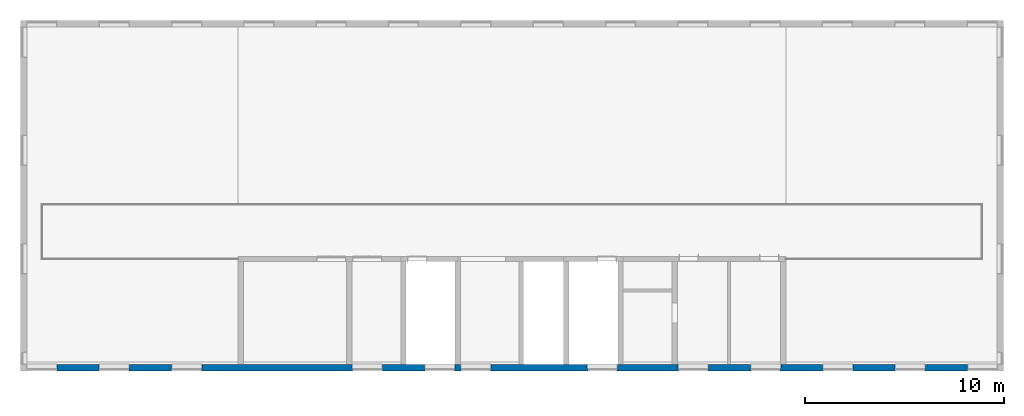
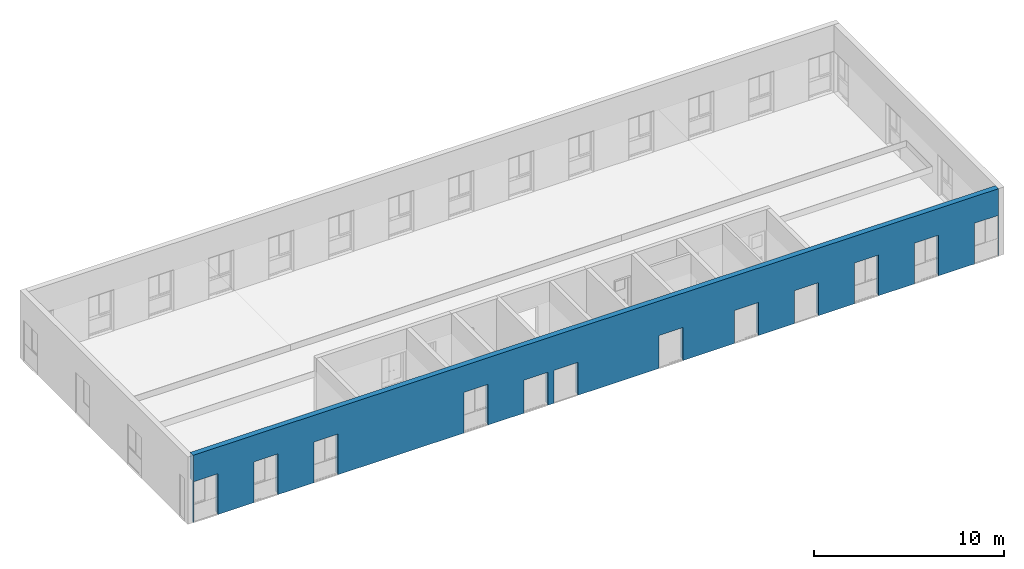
# One storey, part 5 of 11: 1 wall, 13 openings.
"""IFC4X3 building model written with IfcOpenShell, lengths in millimetres."""

from ifc_helpers import new_model, entity, si_unit, converted_unit, derived_unit, direction, frame, frame_2d, origin, place, context, subcontext, project, spatial, rectangle, extrude, faceted_brep, material, layer, layer_set, type_object, element, save


model = new_model("IFC4X3")

# Units and contexts
model_context = context("Model", 3, precision=0.01, world=origin(), true_north=direction((6.12303176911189e-17, 1.0)))
body_context = subcontext(model_context, "Body", "Model", "MODEL_VIEW")
ifc_project = project(units=[si_unit("LENGTHUNIT", "METRE", prefix="MILLI"), si_unit("AREAUNIT", "SQUARE_METRE"), si_unit("VOLUMEUNIT", "CUBIC_METRE"), converted_unit("PLANEANGLEUNIT", "DEGREE", entity("IfcPlaneAngleMeasure", 0.0174532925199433), si_unit("PLANEANGLEUNIT", "RADIAN"), dimensions=[0, 0, 0, 0, 0, 0, 0]), si_unit("MASSUNIT", "GRAM", prefix="KILO"), derived_unit("MASSDENSITYUNIT", [(si_unit("MASSUNIT", "GRAM", prefix="KILO"), 1), (si_unit("LENGTHUNIT", "METRE"), -3)]), derived_unit("IONCONCENTRATIONUNIT", [(si_unit("MASSUNIT", "GRAM", prefix="KILO"), 1), (si_unit("LENGTHUNIT", "METRE"), -3)]), derived_unit("MOMENTOFINERTIAUNIT", [(si_unit("LENGTHUNIT", "METRE"), 4)]), si_unit("TIMEUNIT", "SECOND"), si_unit("FREQUENCYUNIT", "HERTZ"), si_unit("THERMODYNAMICTEMPERATUREUNIT", "DEGREE_CELSIUS"), derived_unit("THERMALTRANSMITTANCEUNIT", [(si_unit("MASSUNIT", "GRAM", prefix="KILO"), 1), (si_unit("THERMODYNAMICTEMPERATUREUNIT", "KELVIN"), -1), (si_unit("TIMEUNIT", "SECOND"), -3)]), derived_unit("THERMALCONDUCTANCEUNIT", [(si_unit("MASSUNIT", "GRAM", prefix="KILO"), 1), (si_unit("THERMODYNAMICTEMPERATUREUNIT", "KELVIN"), -1), (si_unit("TIMEUNIT", "SECOND"), -3), (si_unit("LENGTHUNIT", "METRE"), 1)]), derived_unit("VOLUMETRICFLOWRATEUNIT", [(si_unit("LENGTHUNIT", "METRE", prefix="DECI"), 3), (si_unit("TIMEUNIT", "SECOND"), -1)]), derived_unit("MASSFLOWRATEUNIT", [(si_unit("MASSUNIT", "GRAM", prefix="KILO"), 1), (si_unit("TIMEUNIT", "SECOND"), -1)]), derived_unit("ROTATIONALFREQUENCYUNIT", [(si_unit("TIMEUNIT", "SECOND"), -1)]), si_unit("ELECTRICCURRENTUNIT", "AMPERE"), si_unit("ELECTRICVOLTAGEUNIT", "VOLT"), si_unit("POWERUNIT", "WATT"), si_unit("FORCEUNIT", "NEWTON", prefix="KILO"), si_unit("ILLUMINANCEUNIT", "LUX"), si_unit("LUMINOUSFLUXUNIT", "LUMEN"), si_unit("LUMINOUSINTENSITYUNIT", "CANDELA"), si_unit("ENERGYUNIT", "JOULE"), derived_unit("USERDEFINED", [(si_unit("MASSUNIT", "GRAM", prefix="KILO"), -1), (si_unit("LENGTHUNIT", "METRE"), -2), (si_unit("TIMEUNIT", "SECOND"), 3), (si_unit("LUMINOUSFLUXUNIT", "LUMEN"), 1)]), derived_unit("USERDEFINED", [(si_unit("MASSUNIT", "GRAM", prefix="KILO"), 1), (si_unit("TIMEUNIT", "SECOND"), -3), (si_unit("LENGTHUNIT", "METRE"), 3), (si_unit("ELECTRICCURRENTUNIT", "AMPERE"), -2)]), derived_unit("SOUNDPOWERUNIT", [(si_unit("MASSUNIT", "GRAM", prefix="KILO"), 1), (si_unit("TIMEUNIT", "SECOND"), -3), (si_unit("LENGTHUNIT", "METRE"), 2)]), derived_unit("SOUNDPRESSUREUNIT", [(si_unit("MASSUNIT", "GRAM", prefix="KILO"), 1), (si_unit("LENGTHUNIT", "METRE"), -1), (si_unit("TIMEUNIT", "SECOND"), -2)]), derived_unit("LINEARVELOCITYUNIT", [(si_unit("LENGTHUNIT", "METRE"), 1), (si_unit("TIMEUNIT", "SECOND"), -1)]), si_unit("PRESSUREUNIT", "PASCAL"), derived_unit("USERDEFINED", [(si_unit("MASSUNIT", "GRAM", prefix="KILO"), 1), (si_unit("LENGTHUNIT", "METRE"), -2), (si_unit("TIMEUNIT", "SECOND"), -2)]), derived_unit("LINEARFORCEUNIT", [(si_unit("MASSUNIT", "GRAM", prefix="KILO"), 1), (si_unit("TIMEUNIT", "SECOND"), -2)]), derived_unit("PLANARFORCEUNIT", [(si_unit("MASSUNIT", "GRAM", prefix="KILO"), 1), (si_unit("LENGTHUNIT", "METRE"), -1), (si_unit("TIMEUNIT", "SECOND"), -2)]), derived_unit("SPECIFICHEATCAPACITYUNIT", [(si_unit("THERMODYNAMICTEMPERATUREUNIT", "KELVIN"), -1), (si_unit("LENGTHUNIT", "METRE"), 2), (si_unit("TIMEUNIT", "SECOND"), -2)]), derived_unit("HEATFLUXDENSITYUNIT", [(si_unit("MASSUNIT", "GRAM", prefix="KILO"), 1), (si_unit("TIMEUNIT", "SECOND"), -3)]), derived_unit("HEATINGVALUEUNIT", [(si_unit("LENGTHUNIT", "METRE"), 2), (si_unit("TIMEUNIT", "SECOND"), -2)]), derived_unit("VAPORPERMEABILITYUNIT", [(si_unit("LENGTHUNIT", "METRE"), -1), (si_unit("TIMEUNIT", "SECOND"), 1)]), derived_unit("DYNAMICVISCOSITYUNIT", [(si_unit("MASSUNIT", "GRAM", prefix="KILO"), 1), (si_unit("TIMEUNIT", "SECOND"), -1), (si_unit("LENGTHUNIT", "METRE"), -1)]), derived_unit("THERMALEXPANSIONCOEFFICIENTUNIT", [(si_unit("THERMODYNAMICTEMPERATUREUNIT", "KELVIN"), -1)]), derived_unit("MODULUSOFELASTICITYUNIT", [(si_unit("MASSUNIT", "GRAM", prefix="KILO"), 1), (si_unit("LENGTHUNIT", "METRE"), -1), (si_unit("TIMEUNIT", "SECOND"), -2)]), derived_unit("ISOTHERMALMOISTURECAPACITYUNIT", [(si_unit("MASSUNIT", "GRAM", prefix="KILO"), -1), (si_unit("LENGTHUNIT", "METRE"), 3)]), derived_unit("MOISTUREDIFFUSIVITYUNIT", [(si_unit("TIMEUNIT", "SECOND"), -1), (si_unit("LENGTHUNIT", "METRE"), 2)]), derived_unit("AREADENSITYUNIT", [(si_unit("MASSUNIT", "GRAM", prefix="KILO"), 1), (si_unit("LENGTHUNIT", "METRE"), 2)]), derived_unit("MASSPERLENGTHUNIT", [(si_unit("MASSUNIT", "GRAM", prefix="KILO"), 1), (si_unit("LENGTHUNIT", "METRE"), -1)]), derived_unit("THERMALRESISTANCEUNIT", [(si_unit("MASSUNIT", "GRAM", prefix="KILO"), -1), (si_unit("TIMEUNIT", "SECOND"), 3), (si_unit("THERMODYNAMICTEMPERATUREUNIT", "KELVIN"), 1)]), derived_unit("ACCELERATIONUNIT", [(si_unit("LENGTHUNIT", "METRE"), 1), (si_unit("TIMEUNIT", "SECOND"), -2)]), derived_unit("ANGULARVELOCITYUNIT", [(si_unit("TIMEUNIT", "SECOND"), -1), (si_unit("PLANEANGLEUNIT", "RADIAN"), 1)]), derived_unit("LINEARSTIFFNESSUNIT", [(si_unit("MASSUNIT", "GRAM", prefix="KILO"), 1), (si_unit("TIMEUNIT", "SECOND"), -2)]), derived_unit("WARPINGCONSTANTUNIT", [(si_unit("LENGTHUNIT", "METRE"), 6)]), derived_unit("LINEARMOMENTUNIT", [(si_unit("MASSUNIT", "GRAM", prefix="KILO"), 1), (si_unit("LENGTHUNIT", "METRE"), 1), (si_unit("TIMEUNIT", "SECOND"), -2)]), derived_unit("TORQUEUNIT", [(si_unit("MASSUNIT", "GRAM", prefix="KILO"), 1), (si_unit("LENGTHUNIT", "METRE"), 2), (si_unit("TIMEUNIT", "SECOND"), -2)])], contexts=[model_context])

# Site, building, storey
site_placement = place(None, origin())
site = spatial("IfcSite", under=ifc_project, at=site_placement, Name="Default", CompositionType="ELEMENT")
building_placement = place(site_placement, origin())
building = spatial("IfcBuilding", under=site, at=building_placement, Name="事務所ビル", CompositionType="ELEMENT")
storey_placement = place(building_placement, frame((0.0, 0.0, 8000.0)))
storey = spatial("IfcBuildingStorey", under=building, at=storey_placement, Name="3FL", CompositionType="ELEMENT", Elevation=8000.0)

# Wall, openings
ifc_material_1 = material(Name="<Unnamed>")
ifc_layer_1 = layer(ifc_material_1, 46.0, Name="Layer")
ifc_material_2 = material(Name="合板", Category="一般")
ifc_layer_2 = layer(ifc_material_2, 12.0, Name="合板", Category="一般")
ifc_material_3 = material(Name="天然木材", Category="一般")
ifc_layer_3 = layer(ifc_material_3, 240.0, Name="天然木材", Category="一般")
ifc_layer_4 = layer(ifc_material_2, 12.0, Name="合板", Category="一般")
ifc_material_4 = material(Name="せっこうボード", Category="一般")
ifc_layer_5 = layer(ifc_material_4, 15.0, Name="せっこうボード", Category="一般")
ifc_layer_set = layer_set([ifc_layer_1, ifc_layer_2, ifc_layer_3, ifc_layer_4, ifc_layer_5], Name="標準壁:外装材46_構造用合板12_木240_構造用合板12_GB-R15")
wall_type = type_object("IfcWallType", Name="標準壁:外装材46_構造用合板12_木240_構", PredefinedType="STANDARD", material=ifc_layer_set)
wall_placement = place(storey_placement, frame((147.0, -15.5000000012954, 0.0)))
wall = element("IfcWall", 1, at=wall_placement, inside=storey, type_object=wall_type, material=ifc_layer_set, Name="標準壁:外装材46_構造用合板12_木240_構造用合板12_GB-R15", ObjectType="標準壁:外装材46_構造用合板12_木240_構造用合板12_GB-R15", PredefinedType="NOTDEFINED", context=body_context, shape_type="SweptSolid", body=[
    extrude(rectangle(XDim=48846.0, YDim=325.0, at=frame_2d((24423.0, -1.4210854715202e-14), x_axis=(1.0, 0.0))), origin(), (0.0, 0.0, 1.0), 4320.0),
])
opening_1_placement = place(wall_placement, frame((-147.0, 15.5000000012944, 0.0)))
element("IfcOpeningElement", 2, at=opening_1_placement, cuts=wall, Name="標準壁:外装材46_構造用合板12_木240_構造用合板12_GB-R15", PredefinedType="OPENING", context=body_context, shape_type="Brep", body=[
    faceted_brep([(48983.0, 765.0, -35.0), (48983.0, 765.0, 2735.0), (49188.0, 765.0, 2735.0), (49188.0, 765.0, -35.0), (48983.0, 145.0, -35.0), (49188.0, 145.0, -35.0), (49188.0, 145.0, 2735.0), (48983.0, 145.0, 2735.0), (49188.0, 755.0, -35.0), (49188.0, 155.0, -35.0), (49188.0, 155.0, 2730.0), (49188.0, 755.0, 2730.0), (49258.0, 755.0, 2730.0), (49258.0, 755.0, -115.769230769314), (49188.0, 755.0, -105.0), (49188.0, 155.0, -105.0), (49258.0, 155.0, -115.769230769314), (49258.0, 155.0, 2730.0), (49258.0, 735.0, -115.769230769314), (49318.0, 735.0, -125.0), (49318.0, 175.0, -125.0), (49258.0, 175.0, -115.769230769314), (49258.0, 175.0, 2710.0), (49258.0, 735.0, 2710.0), (49318.0, 735.0, 2710.0), (49318.0, 175.0, 2710.0)], [[[0, 1, 2, 3]], [[4, 5, 6, 7]], [[0, 3, 8, 9, 5, 4]], [[3, 2, 6, 5, 9, 10, 11, 8]], [[2, 1, 7, 6]], [[1, 0, 4, 7]], [[11, 12, 13, 14, 8]], [[15, 16, 17, 10, 9]], [[14, 13, 18, 19, 20, 21, 16, 15]], [[13, 12, 17, 16, 21, 22, 23, 18]], [[12, 11, 10, 17]], [[14, 15, 9, 8]], [[23, 24, 19, 18]], [[21, 20, 25, 22]], [[19, 24, 25, 20]], [[24, 23, 22, 25]]]),
])
opening_2_placement = place(wall_placement, frame((-147.0, 15.5000000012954, 0.0)))
element("IfcOpeningElement", 3, at=opening_2_placement, cuts=wall, Name="標準壁:外装材46_構造用合板12_木240_構造用合板12_GB-R15", PredefinedType="OPENING", context=body_context, shape_type="Brep", body=[
    faceted_brep([(47484.4999999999, 157.0, -35.0), (47484.4999999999, -48.0, -35.0), (47484.4999999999, -48.0, 2635.0), (47484.4999999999, 157.0, 2635.0), (49014.4999999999, 157.0, -35.0), (49014.4999999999, 157.0, 2635.0), (49014.4999999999, -48.0, 2635.0), (49014.4999999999, -48.0, -35.0), (49004.4999999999, -48.0, -35.0), (47494.4999999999, -48.0, -35.0), (47494.4999999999, -48.0, 2630.0), (49004.4999999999, -48.0, 2630.0), (47494.4999999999, -48.0, -105.0), (47494.4999999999, -118.0, -115.769230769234), (47494.4999999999, -118.0, 2630.0), (49004.4999999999, -48.0, -105.0), (49004.4999999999, -118.0, 2630.0), (49004.4999999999, -118.0, -115.769230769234), (47514.4999999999, -118.0, 2610.0), (48984.4999999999, -118.0, 2610.0), (48984.4999999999, -118.0, -10.0), (47514.4999999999, -118.0, -10.0), (47514.4999999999, -178.0, -10.0), (47514.4999999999, -178.0, 2610.0), (48984.4999999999, -178.0, 2610.0), (48984.4999999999, -178.0, -10.0)], [[[0, 1, 2, 3]], [[4, 5, 6, 7]], [[0, 4, 7, 8, 9, 1]], [[1, 9, 10, 11, 8, 7, 6, 2]], [[2, 6, 5, 3]], [[3, 5, 4, 0]], [[10, 9, 12, 13, 14]], [[15, 8, 11, 16, 17]], [[12, 15, 17, 13]], [[13, 17, 16, 14], [18, 19, 20, 21]], [[14, 16, 11, 10]], [[12, 9, 8, 15]], [[18, 21, 22, 23]], [[20, 19, 24, 25]], [[21, 20, 25, 22]], [[22, 25, 24, 23]], [[23, 24, 19, 18]]]),
])
opening_3_placement = place(wall_placement, frame((-147.0, 15.5000000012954, 0.0)))
element("IfcOpeningElement", 4, at=opening_3_placement, cuts=wall, Name="標準壁:外装材46_構造用合板12_木240_構造用合板12_GB-R15", PredefinedType="OPENING", context=body_context, shape_type="Brep", body=[
    faceted_brep([(145.0, 157.0, -35.0), (145.0, -48.0, -35.0), (145.0, -48.0, 2635.0), (145.0, 157.0, 2635.0), (1675.0, 157.0, -35.0), (1675.0, 157.0, 2635.0), (1675.0, -48.0, 2635.0), (1675.0, -48.0, -35.0), (1665.0, -48.0, -35.0), (155.0, -48.0, -35.0), (155.0, -48.0, 2630.0), (1665.0, -48.0, 2630.0), (155.0, -48.0, -105.0), (155.0, -118.0, -115.769230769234), (155.0, -118.0, 2630.0), (1665.0, -48.0, -105.0), (1665.0, -118.0, 2630.0), (1665.0, -118.0, -115.769230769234), (175.0, -118.0, 2610.0), (1645.0, -118.0, 2610.0), (1645.0, -118.0, -10.0), (175.0, -118.0, -10.0), (175.0, -178.0, -10.0), (175.0, -178.0, 2610.0), (1645.0, -178.0, 2610.0), (1645.0, -178.0, -10.0)], [[[0, 1, 2, 3]], [[4, 5, 6, 7]], [[0, 4, 7, 8, 9, 1]], [[1, 9, 10, 11, 8, 7, 6, 2]], [[2, 6, 5, 3]], [[3, 5, 4, 0]], [[10, 9, 12, 13, 14]], [[15, 8, 11, 16, 17]], [[12, 15, 17, 13]], [[13, 17, 16, 14], [18, 19, 20, 21]], [[14, 16, 11, 10]], [[12, 9, 8, 15]], [[18, 21, 22, 23]], [[20, 19, 24, 25]], [[21, 20, 25, 22]], [[22, 25, 24, 23]], [[23, 24, 19, 18]]]),
])
opening_4_placement = place(wall_placement, frame((-147.0, 15.5000000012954, 0.0)))
element("IfcOpeningElement", 5, at=opening_4_placement, cuts=wall, Name="標準壁:外装材46_構造用合板12_木240_構造用合板12_GB-R15", PredefinedType="OPENING", context=body_context, shape_type="Brep", body=[
    faceted_brep([(20165.0, -48.0, -35.0), (20175.0, -48.0, -35.0), (20175.0, -48.0, 2130.0), (21685.0, -48.0, 2130.0), (21685.0, -48.0, -35.0), (21695.0, -48.0, -35.0), (21695.0, -48.0, 2135.0), (20165.0, -48.0, 2135.0), (20175.0, -118.0, -115.769230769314), (20195.0, -118.0, -115.769230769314), (20195.0, -118.0, 2110.0), (21665.0, -118.0, 2110.0), (21665.0, -118.0, -115.769230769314), (21685.0, -118.0, -115.769230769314), (21685.0, -118.0, 2130.0), (20175.0, -118.0, 2130.0), (20165.0, 157.0, -35.0), (20165.0, 157.0, 2135.0), (21695.0, 157.0, -35.0), (21695.0, 157.0, 2135.0), (20175.0, -48.0, -105.0), (21685.0, -48.0, -105.0), (21665.0, -178.0, -125.0), (20195.0, -178.0, -125.0), (20195.0, -178.0, 2110.0), (21665.0, -178.0, 2110.0)], [[[0, 1, 2, 3, 4, 5, 6, 7]], [[8, 9, 10, 11, 12, 13, 14, 15]], [[16, 0, 7, 17]], [[18, 19, 6, 5]], [[16, 18, 5, 4, 1, 0]], [[7, 6, 19, 17]], [[17, 19, 18, 16]], [[2, 1, 20, 8, 15]], [[21, 4, 3, 14, 13]], [[20, 21, 13, 12, 22, 23, 9, 8]], [[15, 14, 3, 2]], [[20, 1, 4, 21]], [[10, 9, 23, 24]], [[12, 11, 25, 22]], [[23, 22, 25, 24]], [[24, 25, 11, 10]]]),
])
opening_5_placement = place(wall_placement, frame((-147.0, 15.5000000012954, 0.0)))
element("IfcOpeningElement", 6, at=opening_5_placement, cuts=wall, Name="標準壁:外装材46_構造用合板12_木240_構造用合板12_GB-R15", PredefinedType="OPENING", context=body_context, shape_type="Brep", body=[
    faceted_brep([(21985.0, -48.0, -35.0), (21995.0, -48.0, -35.0), (21995.0, -48.0, 2130.0), (23505.0, -48.0, 2130.0), (23505.0, -48.0, -35.0), (23515.0, -48.0, -35.0), (23515.0, -48.0, 2135.0), (21985.0, -48.0, 2135.0), (21995.0, -118.0, -115.769230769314), (22015.0, -118.0, -115.769230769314), (22015.0, -118.0, 2110.0), (23485.0, -118.0, 2110.0), (23485.0, -118.0, -115.769230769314), (23505.0, -118.0, -115.769230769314), (23505.0, -118.0, 2130.0), (21995.0, -118.0, 2130.0), (21985.0, 157.0, -35.0), (21985.0, 157.0, 2135.0), (23515.0, 157.0, -35.0), (23515.0, 157.0, 2135.0), (21995.0, -48.0, -105.0), (23505.0, -48.0, -105.0), (23485.0, -178.0, -125.0), (22015.0, -178.0, -125.0), (22015.0, -178.0, 2110.0), (23485.0, -178.0, 2110.0)], [[[0, 1, 2, 3, 4, 5, 6, 7]], [[8, 9, 10, 11, 12, 13, 14, 15]], [[16, 0, 7, 17]], [[18, 19, 6, 5]], [[16, 18, 5, 4, 1, 0]], [[7, 6, 19, 17]], [[17, 19, 18, 16]], [[2, 1, 20, 8, 15]], [[21, 4, 3, 14, 13]], [[20, 21, 13, 12, 22, 23, 9, 8]], [[15, 14, 3, 2]], [[20, 1, 4, 21]], [[10, 9, 23, 24]], [[12, 11, 25, 22]], [[23, 22, 25, 24]], [[24, 25, 11, 10]]]),
])
opening_6_placement = place(wall_placement, frame((-147.0, 15.5000000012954, 0.0)))
element("IfcOpeningElement", 7, at=opening_6_placement, cuts=wall, Name="標準壁:外装材46_構造用合板12_木240_構造用合板12_GB-R15", PredefinedType="OPENING", context=body_context, shape_type="Brep", body=[
    faceted_brep([(3785.0, 157.0, -35.0), (3785.0, -48.0, -35.0), (3785.0, -48.0, 2635.0), (3785.0, 157.0, 2635.0), (5315.0, 157.0, -35.0), (5315.0, 157.0, 2635.0), (5315.0, -48.0, 2635.0), (5315.0, -48.0, -35.0), (5305.0, -48.0, -35.0), (3795.0, -48.0, -35.0), (3795.0, -48.0, 2630.0), (5305.0, -48.0, 2630.0), (3795.0, -48.0, -105.0), (3795.0, -118.0, -115.769230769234), (3795.0, -118.0, 2630.0), (5305.0, -48.0, -105.0), (5305.0, -118.0, 2630.0), (5305.0, -118.0, -115.769230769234), (3815.0, -118.0, 2610.0), (5285.0, -118.0, 2610.0), (5285.0, -118.0, -10.0), (3815.0, -118.0, -10.0), (3815.0, -178.0, -10.0), (3815.0, -178.0, 2610.0), (5285.0, -178.0, 2610.0), (5285.0, -178.0, -10.0)], [[[0, 1, 2, 3]], [[4, 5, 6, 7]], [[0, 4, 7, 8, 9, 1]], [[1, 9, 10, 11, 8, 7, 6, 2]], [[2, 6, 5, 3]], [[3, 5, 4, 0]], [[10, 9, 12, 13, 14]], [[15, 8, 11, 16, 17]], [[12, 15, 17, 13]], [[13, 17, 16, 14], [18, 19, 20, 21]], [[14, 16, 11, 10]], [[12, 9, 8, 15]], [[18, 21, 22, 23]], [[20, 19, 24, 25]], [[21, 20, 25, 22]], [[22, 25, 24, 23]], [[23, 24, 19, 18]]]),
])
opening_7_placement = place(wall_placement, frame((-147.0, 15.5000000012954, 0.0)))
element("IfcOpeningElement", 8, at=opening_7_placement, cuts=wall, Name="標準壁:外装材46_構造用合板12_木240_構造用合板12_GB-R15", PredefinedType="OPENING", context=body_context, shape_type="Brep", body=[
    faceted_brep([(7425.0, 157.0, -35.0), (7425.0, -48.0, -35.0), (7425.0, -48.0, 2635.0), (7425.0, 157.0, 2635.0), (8955.0, 157.0, -35.0), (8955.0, 157.0, 2635.0), (8955.0, -48.0, 2635.0), (8955.0, -48.0, -35.0), (8945.0, -48.0, -35.0), (7435.0, -48.0, -35.0), (7435.0, -48.0, 2630.0), (8945.0, -48.0, 2630.0), (7435.0, -48.0, -105.0), (7435.0, -118.0, -115.769230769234), (7435.0, -118.0, 2630.0), (8945.0, -48.0, -105.0), (8945.0, -118.0, 2630.0), (8945.0, -118.0, -115.769230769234), (7455.0, -118.0, 2610.0), (8925.0, -118.0, 2610.0), (8925.0, -118.0, -10.0), (7455.0, -118.0, -10.0), (7455.0, -178.0, -10.0), (7455.0, -178.0, 2610.0), (8925.0, -178.0, 2610.0), (8925.0, -178.0, -10.0)], [[[0, 1, 2, 3]], [[4, 5, 6, 7]], [[0, 4, 7, 8, 9, 1]], [[1, 9, 10, 11, 8, 7, 6, 2]], [[2, 6, 5, 3]], [[3, 5, 4, 0]], [[10, 9, 12, 13, 14]], [[15, 8, 11, 16, 17]], [[12, 15, 17, 13]], [[13, 17, 16, 14], [18, 19, 20, 21]], [[14, 16, 11, 10]], [[12, 9, 8, 15]], [[18, 21, 22, 23]], [[20, 19, 24, 25]], [[21, 20, 25, 22]], [[22, 25, 24, 23]], [[23, 24, 19, 18]]]),
])
opening_8_placement = place(wall_placement, frame((-147.0, 15.5000000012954, 0.0)))
element("IfcOpeningElement", 9, at=opening_8_placement, cuts=wall, Name="標準壁:外装材46_構造用合板12_木240_構造用合板12_GB-R15", PredefinedType="OPENING", context=body_context, shape_type="Brep", body=[
    faceted_brep([(16525.0, 157.0, -35.0), (16525.0, -48.0, -35.0), (16525.0, -48.0, 2635.0), (16525.0, 157.0, 2635.0), (18055.0, 157.0, -35.0), (18055.0, 157.0, 2635.0), (18055.0, -48.0, 2635.0), (18055.0, -48.0, -35.0), (18045.0, -48.0, -35.0), (16535.0, -48.0, -35.0), (16535.0, -48.0, 2630.0), (18045.0, -48.0, 2630.0), (16535.0, -48.0, -105.0), (16535.0, -118.0, -115.769230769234), (16535.0, -118.0, 2630.0), (18045.0, -48.0, -105.0), (18045.0, -118.0, 2630.0), (18045.0, -118.0, -115.769230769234), (16555.0, -118.0, 2610.0), (18025.0, -118.0, 2610.0), (18025.0, -118.0, -10.0), (16555.0, -118.0, -10.0), (16555.0, -178.0, -10.0), (16555.0, -178.0, 2610.0), (18025.0, -178.0, 2610.0), (18025.0, -178.0, -10.0)], [[[0, 1, 2, 3]], [[4, 5, 6, 7]], [[0, 4, 7, 8, 9, 1]], [[1, 9, 10, 11, 8, 7, 6, 2]], [[2, 6, 5, 3]], [[3, 5, 4, 0]], [[10, 9, 12, 13, 14]], [[15, 8, 11, 16, 17]], [[12, 15, 17, 13]], [[13, 17, 16, 14], [18, 19, 20, 21]], [[14, 16, 11, 10]], [[12, 9, 8, 15]], [[18, 21, 22, 23]], [[20, 19, 24, 25]], [[21, 20, 25, 22]], [[22, 25, 24, 23]], [[23, 24, 19, 18]]]),
])
opening_9_placement = place(wall_placement, frame((-147.0, 15.5000000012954, 0.0)))
element("IfcOpeningElement", 10, at=opening_9_placement, cuts=wall, Name="標準壁:外装材46_構造用合板12_木240_構造用合板12_GB-R15", PredefinedType="OPENING", context=body_context, shape_type="Brep", body=[
    faceted_brep([(28355.0, 157.0, -35.0), (28355.0, -48.0, -35.0), (28355.0, -48.0, 2135.0), (28355.0, 157.0, 2135.0), (29885.0, 157.0, -35.0), (29885.0, 157.0, 2135.0), (29885.0, -48.0, 2135.0), (29885.0, -48.0, -35.0), (29875.0, -48.0, -35.0), (28365.0, -48.0, -35.0), (28365.0, -48.0, 2130.0), (29875.0, -48.0, 2130.0), (28365.0, -48.0, -105.0), (28365.0, -118.0, -115.769230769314), (28365.0, -118.0, 2130.0), (29875.0, -48.0, -105.0), (29875.0, -118.0, 2130.0), (29875.0, -118.0, -115.769230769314), (29855.0, -118.0, -115.769230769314), (29855.0, -178.0, -125.0), (28385.0, -178.0, -125.0), (28385.0, -118.0, -115.769230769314), (28385.0, -118.0, 2110.0), (29855.0, -118.0, 2110.0), (28385.0, -178.0, 2110.0), (29855.0, -178.0, 2110.0)], [[[0, 1, 2, 3]], [[4, 5, 6, 7]], [[0, 4, 7, 8, 9, 1]], [[1, 9, 10, 11, 8, 7, 6, 2]], [[2, 6, 5, 3]], [[3, 5, 4, 0]], [[10, 9, 12, 13, 14]], [[15, 8, 11, 16, 17]], [[12, 15, 17, 18, 19, 20, 21, 13]], [[13, 21, 22, 23, 18, 17, 16, 14]], [[14, 16, 11, 10]], [[12, 9, 8, 15]], [[22, 21, 20, 24]], [[18, 23, 25, 19]], [[20, 19, 25, 24]], [[24, 25, 23, 22]]]),
])
opening_10_placement = place(wall_placement, frame((-147.0, 15.5000000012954, 0.0)))
element("IfcOpeningElement", 11, at=opening_10_placement, cuts=wall, Name="標準壁:外装材46_構造用合板12_木240_構造用合板12_GB-R15", PredefinedType="OPENING", context=body_context, shape_type="Brep", body=[
    faceted_brep([(32927.5698535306, 157.0, -35.0), (32927.5698535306, -48.0, -35.0), (32927.5698535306, -48.0, 2135.0), (32927.5698535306, 157.0, 2135.0), (34457.5698535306, 157.0, -35.0), (34457.5698535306, 157.0, 2135.0), (34457.5698535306, -48.0, 2135.0), (34457.5698535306, -48.0, -35.0), (34447.5698535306, -48.0, -35.0), (32937.5698535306, -48.0, -35.0), (32937.5698535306, -48.0, 2130.0), (34447.5698535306, -48.0, 2130.0), (32937.5698535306, -48.0, -105.0), (32937.5698535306, -118.0, -115.769230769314), (32937.5698535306, -118.0, 2130.0), (34447.5698535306, -48.0, -105.0), (34447.5698535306, -118.0, 2130.0), (34447.5698535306, -118.0, -115.769230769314), (34427.5698535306, -118.0, -115.769230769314), (34427.5698535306, -178.0, -125.0), (32957.5698535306, -178.0, -125.0), (32957.5698535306, -118.0, -115.769230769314), (32957.5698535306, -118.0, 2110.0), (34427.5698535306, -118.0, 2110.0), (32957.5698535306, -178.0, 2110.0), (34427.5698535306, -178.0, 2110.0)], [[[0, 1, 2, 3]], [[4, 5, 6, 7]], [[0, 4, 7, 8, 9, 1]], [[1, 9, 10, 11, 8, 7, 6, 2]], [[2, 6, 5, 3]], [[3, 5, 4, 0]], [[10, 9, 12, 13, 14]], [[15, 8, 11, 16, 17]], [[12, 15, 17, 18, 19, 20, 21, 13]], [[13, 21, 22, 23, 18, 17, 16, 14]], [[14, 16, 11, 10]], [[12, 9, 8, 15]], [[22, 21, 20, 24]], [[18, 23, 25, 19]], [[20, 19, 25, 24]], [[24, 25, 23, 22]]]),
])
opening_11_placement = place(wall_placement, frame((-147.0, 15.5000000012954, 0.0)))
element("IfcOpeningElement", 12, at=opening_11_placement, cuts=wall, Name="標準壁:外装材46_構造用合板12_木240_構造用合板12_GB-R15", PredefinedType="OPENING", context=body_context, shape_type="Brep", body=[
    faceted_brep([(36567.5698535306, 157.0, -35.0), (36567.5698535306, -48.0, -35.0), (36567.5698535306, -48.0, 2135.0), (36567.5698535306, 157.0, 2135.0), (38097.5698535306, 157.0, -35.0), (38097.5698535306, 157.0, 2135.0), (38097.5698535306, -48.0, 2135.0), (38097.5698535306, -48.0, -35.0), (38087.5698535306, -48.0, -35.0), (36577.5698535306, -48.0, -35.0), (36577.5698535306, -48.0, 2130.0), (38087.5698535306, -48.0, 2130.0), (36577.5698535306, -48.0, -105.0), (36577.5698535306, -118.0, -115.769230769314), (36577.5698535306, -118.0, 2130.0), (38087.5698535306, -48.0, -105.0), (38087.5698535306, -118.0, 2130.0), (38087.5698535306, -118.0, -115.769230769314), (38067.5698535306, -118.0, -115.769230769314), (38067.5698535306, -178.0, -125.0), (36597.5698535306, -178.0, -125.0), (36597.5698535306, -118.0, -115.769230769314), (36597.5698535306, -118.0, 2110.0), (38067.5698535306, -118.0, 2110.0), (36597.5698535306, -178.0, 2110.0), (38067.5698535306, -178.0, 2110.0)], [[[0, 1, 2, 3]], [[4, 5, 6, 7]], [[0, 4, 7, 8, 9, 1]], [[1, 9, 10, 11, 8, 7, 6, 2]], [[2, 6, 5, 3]], [[3, 5, 4, 0]], [[10, 9, 12, 13, 14]], [[15, 8, 11, 16, 17]], [[12, 15, 17, 18, 19, 20, 21, 13]], [[13, 21, 22, 23, 18, 17, 16, 14]], [[14, 16, 11, 10]], [[12, 9, 8, 15]], [[22, 21, 20, 24]], [[18, 23, 25, 19]], [[20, 19, 25, 24]], [[24, 25, 23, 22]]]),
])
opening_12_placement = place(wall_placement, frame((-147.0, 15.5000000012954, 0.0)))
element("IfcOpeningElement", 13, at=opening_12_placement, cuts=wall, Name="標準壁:外装材46_構造用合板12_木240_構造用合板12_GB-R15", PredefinedType="OPENING", context=body_context, shape_type="Brep", body=[
    faceted_brep([(40207.5698535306, 157.0, -35.0), (40207.5698535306, -48.0, -35.0), (40207.5698535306, -48.0, 2635.0), (40207.5698535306, 157.0, 2635.0), (41737.5698535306, 157.0, -35.0), (41737.5698535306, 157.0, 2635.0), (41737.5698535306, -48.0, 2635.0), (41737.5698535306, -48.0, -35.0), (41727.5698535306, -48.0, -35.0), (40217.5698535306, -48.0, -35.0), (40217.5698535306, -48.0, 2630.0), (41727.5698535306, -48.0, 2630.0), (40217.5698535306, -48.0, -105.0), (40217.5698535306, -118.0, -115.769230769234), (40217.5698535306, -118.0, 2630.0), (41727.5698535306, -48.0, -105.0), (41727.5698535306, -118.0, 2630.0), (41727.5698535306, -118.0, -115.769230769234), (40237.5698535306, -118.0, 2610.0), (41707.5698535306, -118.0, 2610.0), (41707.5698535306, -118.0, -10.0), (40237.5698535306, -118.0, -10.0), (40237.5698535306, -178.0, -10.0), (40237.5698535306, -178.0, 2610.0), (41707.5698535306, -178.0, 2610.0), (41707.5698535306, -178.0, -10.0)], [[[0, 1, 2, 3]], [[4, 5, 6, 7]], [[0, 4, 7, 8, 9, 1]], [[1, 9, 10, 11, 8, 7, 6, 2]], [[2, 6, 5, 3]], [[3, 5, 4, 0]], [[10, 9, 12, 13, 14]], [[15, 8, 11, 16, 17]], [[12, 15, 17, 13]], [[13, 17, 16, 14], [18, 19, 20, 21]], [[14, 16, 11, 10]], [[12, 9, 8, 15]], [[18, 21, 22, 23]], [[20, 19, 24, 25]], [[21, 20, 25, 22]], [[22, 25, 24, 23]], [[23, 24, 19, 18]]]),
])
opening_13_placement = place(wall_placement, frame((-147.0, 15.5000000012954, 0.0)))
element("IfcOpeningElement", 14, at=opening_13_placement, cuts=wall, Name="標準壁:外装材46_構造用合板12_木240_構造用合板12_GB-R15", PredefinedType="OPENING", context=body_context, shape_type="Brep", body=[
    faceted_brep([(43847.5698535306, 157.0, -35.0), (43847.5698535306, -48.0, -35.0), (43847.5698535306, -48.0, 2635.0), (43847.5698535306, 157.0, 2635.0), (45377.5698535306, 157.0, -35.0), (45377.5698535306, 157.0, 2635.0), (45377.5698535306, -48.0, 2635.0), (45377.5698535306, -48.0, -35.0), (45367.5698535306, -48.0, -35.0), (43857.5698535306, -48.0, -35.0), (43857.5698535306, -48.0, 2630.0), (45367.5698535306, -48.0, 2630.0), (43857.5698535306, -48.0, -105.0), (43857.5698535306, -118.0, -115.769230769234), (43857.5698535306, -118.0, 2630.0), (45367.5698535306, -48.0, -105.0), (45367.5698535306, -118.0, 2630.0), (45367.5698535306, -118.0, -115.769230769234), (43877.5698535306, -118.0, 2610.0), (45347.5698535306, -118.0, 2610.0), (45347.5698535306, -118.0, -10.0), (43877.5698535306, -118.0, -10.0), (43877.5698535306, -178.0, -10.0), (43877.5698535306, -178.0, 2610.0), (45347.5698535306, -178.0, 2610.0), (45347.5698535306, -178.0, -10.0)], [[[0, 1, 2, 3]], [[4, 5, 6, 7]], [[0, 4, 7, 8, 9, 1]], [[1, 9, 10, 11, 8, 7, 6, 2]], [[2, 6, 5, 3]], [[3, 5, 4, 0]], [[10, 9, 12, 13, 14]], [[15, 8, 11, 16, 17]], [[12, 15, 17, 13]], [[13, 17, 16, 14], [18, 19, 20, 21]], [[14, 16, 11, 10]], [[12, 9, 8, 15]], [[18, 21, 22, 23]], [[20, 19, 24, 25]], [[21, 20, 25, 22]], [[22, 25, 24, 23]], [[23, 24, 19, 18]]]),
])

save(model, "model.ifc")
